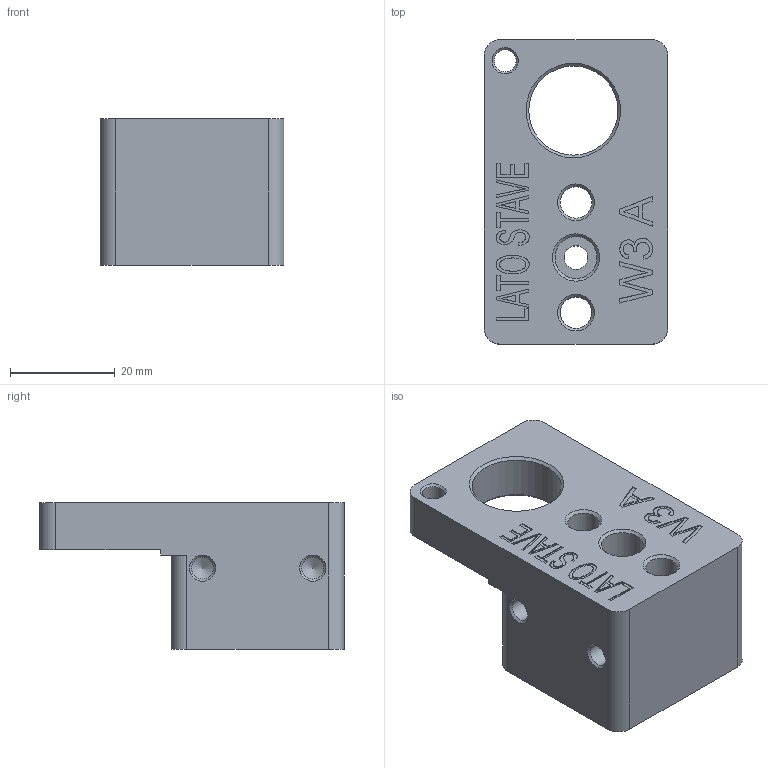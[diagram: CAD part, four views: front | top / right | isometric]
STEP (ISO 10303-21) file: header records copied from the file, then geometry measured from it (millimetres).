
FILE_DESCRIPTION(/* description */ (''),/* implementation_level */ '2;1');
FILE_NAME(/* name */ 'WHEELS-INSERT.18.stp',/* time_stamp */ '2018-05-25T14:24:22+02:00',/* author */ (''),/* organization */ (''),/* preprocessor_version */ 'ST-DEVELOPER v16.7',/* originating_system */ 'SIEMENS PLM Software NX 12.0',/* authorisation */ '');
FILE_SCHEMA (('AP203_CONFIGURATION_CONTROLLED_3D_DESIGN_OF_MECHANICAL_PARTS_AND_ASSEMBLIES_MIM_LF { 1 0 10303 403 2 1 2}'));
Length unit declared in the file: millimetre
Products named in the file (1): turc66A81BAD9zfq
Bounding box: 35 x 58 x 28 mm (x, y, z)
Volume: 35246.6 mm3; surface area: 9992.7 mm2
Topology: 1 solids, 1 shells, 159 faces, 411 edges, 271 vertices
Faces by surface type: plane 105, extrusion 26, cylinder 14, cone 14
Full cylindrical faces by diameter (mm): 4.2 x3, 4.5 x1, 6 x2, 8 x1, 17 x1
Entity records: 5508 total; most frequent: CARTESIAN_POINT 2002, ORIENTED_EDGE 764, DIRECTION 508, EDGE_CURVE 382, VERTEX_POINT 266, B_SPLINE_CURVE_WITH_KNOTS 234, EDGE_LOOP 208, AXIS2_PLACEMENT_3D 174
